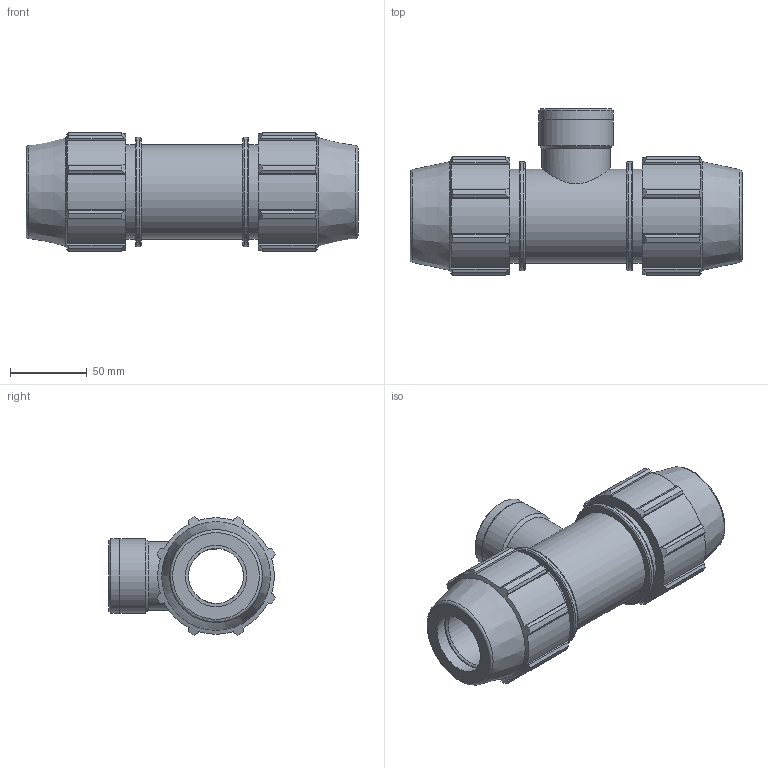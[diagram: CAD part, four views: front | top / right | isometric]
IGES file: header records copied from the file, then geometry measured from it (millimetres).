
Global section: file name: 071400040013_181400040013_0714060400130A.ipt; native system: Autodesk Inventor 2015; preprocessor: unknown; author: KIM; date: 20170606.172154; units: millimetre
Bounding box: 217 x 108.58 x 77.16 mm (x, y, z)
Volume: 556501.3 mm3; surface area: 99200.8 mm2
Topology: 1 solids, 1 shells, 157 faces, 443 edges, 299 vertices
Faces by surface type: plane 79, cylinder 40, cone 23, revolution 15
Full cylindrical faces by diameter (mm): 44.795 x1, 48.69 x2, 61.5 x3, 71.34 x2
